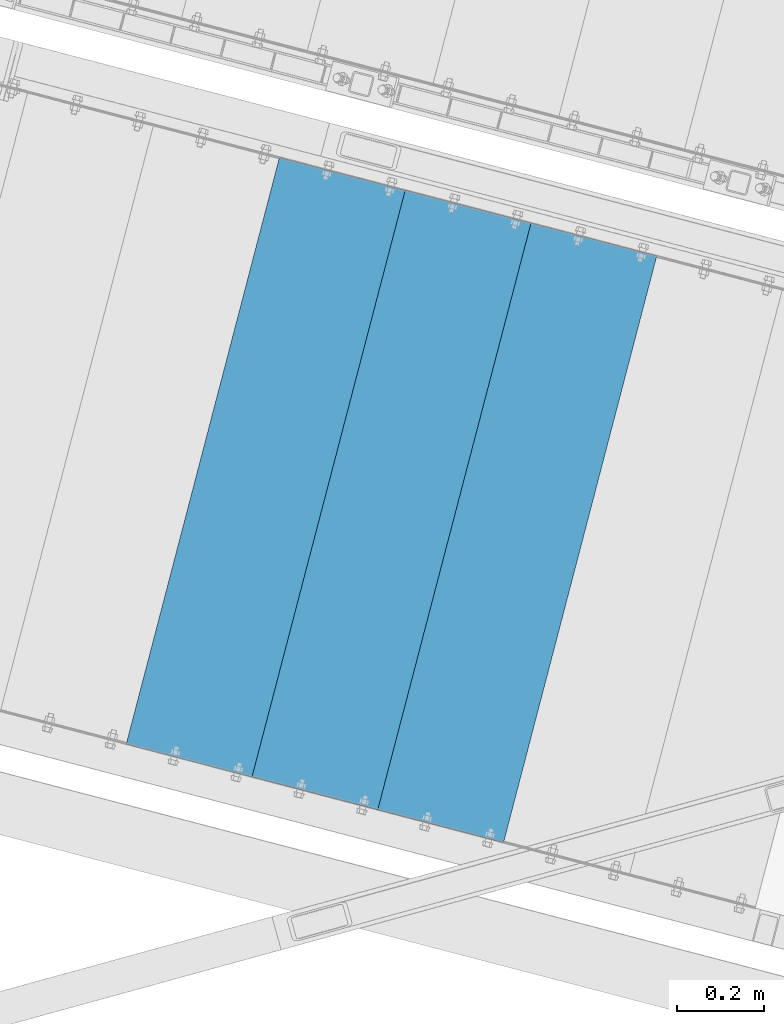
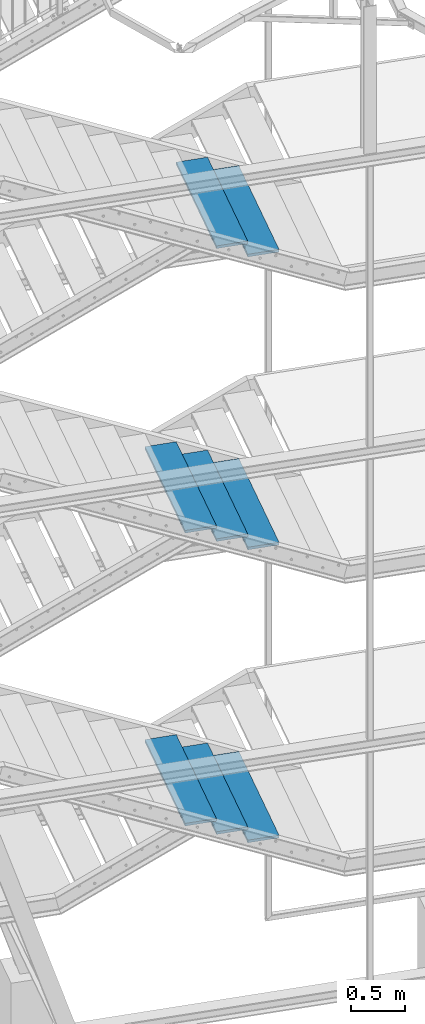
# One storey, part 34 of 169: 8 discrete accessories, 8 elements without a shape of their own.
"""IFC2X3 building model written with IfcOpenShell, lengths in millimetres."""

from ifc_helpers import new_model, si_unit, frame, origin_with_axes, place, context, subcontext, project, spatial, polyline, outline, extrude, material, type_object, element, aggregate, save


model = new_model("IFC2X3")

# Units and contexts
model_context = context("Model", 3, precision=1e-05, world=origin_with_axes())
body_context = subcontext(model_context, "Body", "Model", "MODEL_VIEW")
ifc_project = project(units=[si_unit("LENGTHUNIT", "METRE", prefix="MILLI"), si_unit("AREAUNIT", "SQUARE_METRE"), si_unit("VOLUMEUNIT", "CUBIC_METRE"), si_unit("MASSUNIT", "GRAM", prefix="KILO"), si_unit("TIMEUNIT", "SECOND"), si_unit("PLANEANGLEUNIT", "RADIAN"), si_unit("SOLIDANGLEUNIT", "STERADIAN"), si_unit("THERMODYNAMICTEMPERATUREUNIT", "DEGREE_CELSIUS"), si_unit("LUMINOUSINTENSITYUNIT", "LUMEN")], contexts=[model_context])

# Site, building, storey
site_placement = place(None, origin_with_axes())
site = spatial("IfcSite", under=ifc_project, at=site_placement, Name="Undefined", CompositionType="ELEMENT")
building_placement = place(site_placement, origin_with_axes())
building = spatial("IfcBuilding", under=site, at=building_placement, Name="Undefined", CompositionType="ELEMENT")
storey_placement = place(building_placement, origin_with_axes())
storey = spatial("IfcBuildingStorey", under=building, at=storey_placement, Name="Undefined", CompositionType="ELEMENT", Elevation=0.0)

# Assembly, discrete accessory
assembly_1_placement = place(storey_placement, origin_with_axes())
assembly_1 = element("IfcElementAssembly", 1, at=assembly_1_placement, inside=storey, Name="Steel Assembly", AssemblyPlace="NOTDEFINED", PredefinedType="RIGID_FRAME")
ifc_material = material(Name="STEEL/S235JR")
discrete_accessory_type = type_object("IfcDiscreteAccessoryType", Name="STOPNIE")
discrete_accessory_1_placement = place(assembly_1_placement, frame((-25805.6134253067, 6599.44397003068, 11165.3215824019), z_axis=(-2.54700353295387e-10, 0.0, -1.0), x_axis=(-0.252694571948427, -0.96754609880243, 0.0)))
discrete_accessory_1 = element("IfcDiscreteAccessory", 2, at=discrete_accessory_1_placement, type_object=discrete_accessory_type, material=ifc_material, Name="STOPNIE", ObjectType="PL30*300", context=body_context, shape_type="SweptSolid", body=[
    extrude(outline(polyline([(1400.00000144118, 150.000000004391), (1400.0000014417, -149.999999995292), (3.45607986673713e-11, -150.00000000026), (-3.09228198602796e-11, 150.000000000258), (1400.00000144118, 150.000000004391)])), frame((1.81898940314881e-12, 3.72231275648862e-23, -15.0000000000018), z_axis=(0.0, 0.0, 1.0), x_axis=(1.0, 0.0, 0.0)), (0.0, 0.0, 1.0), 30.0),
])
aggregate(assembly_1, [discrete_accessory_1])

assembly_2_placement = place(storey_placement, origin_with_axes())
assembly_2 = element("IfcElementAssembly", 3, at=assembly_2_placement, inside=storey, Name="Steel Assembly", AssemblyPlace="NOTDEFINED", PredefinedType="RIGID_FRAME")
discrete_accessory_2_placement = place(assembly_2_placement, frame((-25515.3495922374, 6523.63559767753, 11015.3215824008), z_axis=(-2.54700353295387e-10, 0.0, -1.0), x_axis=(-0.252694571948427, -0.96754609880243, 0.0)))
discrete_accessory_2 = element("IfcDiscreteAccessory", 4, at=discrete_accessory_2_placement, type_object=discrete_accessory_type, material=ifc_material, Name="STOPNIE", ObjectType="PL30*300", context=body_context, shape_type="SweptSolid", body=[
    extrude(outline(polyline([(1400.00000144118, 150.000000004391), (1400.0000014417, -149.999999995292), (3.45607986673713e-11, -150.00000000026), (-3.09228198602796e-11, 150.000000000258), (1400.00000144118, 150.000000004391)])), frame((1.81898940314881e-12, 3.72231275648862e-23, -15.0000000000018), z_axis=(0.0, 0.0, 1.0), x_axis=(1.0, 0.0, 0.0)), (0.0, 0.0, 1.0), 30.0),
])
aggregate(assembly_2, [discrete_accessory_2])

assembly_3_placement = place(storey_placement, origin_with_axes())
assembly_3 = element("IfcElementAssembly", 5, at=assembly_3_placement, inside=storey, Name="Steel Assembly", AssemblyPlace="NOTDEFINED", PredefinedType="RIGID_FRAME")
discrete_accessory_3_placement = place(assembly_3_placement, frame((-26095.9913357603, 6674.81542743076, 8015.32161330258), z_axis=(-2.54700353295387e-10, 0.0, -1.0), x_axis=(-0.252694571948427, -0.96754609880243, 0.0)))
discrete_accessory_3 = element("IfcDiscreteAccessory", 6, at=discrete_accessory_3_placement, type_object=discrete_accessory_type, material=ifc_material, Name="STOPNIE", ObjectType="PL30*300", context=body_context, shape_type="SweptSolid", body=[
    extrude(outline(polyline([(1400.00000144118, 150.000000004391), (1400.0000014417, -149.999999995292), (3.45607986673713e-11, -150.00000000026), (-3.09228198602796e-11, 150.000000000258), (1400.00000144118, 150.000000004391)])), frame((1.81898940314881e-12, 3.72231275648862e-23, -15.0000000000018), z_axis=(0.0, 0.0, 1.0), x_axis=(1.0, 0.0, 0.0)), (0.0, 0.0, 1.0), 30.0),
])
aggregate(assembly_3, [discrete_accessory_3])

assembly_4_placement = place(storey_placement, origin_with_axes())
assembly_4 = element("IfcElementAssembly", 7, at=assembly_4_placement, inside=storey, Name="Steel Assembly", AssemblyPlace="NOTDEFINED", PredefinedType="RIGID_FRAME")
discrete_accessory_4_placement = place(assembly_4_placement, frame((-25805.7275026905, 6599.00705507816, 7865.32161330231), z_axis=(-2.54700353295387e-10, 0.0, -1.0), x_axis=(-0.252694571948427, -0.96754609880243, 0.0)))
discrete_accessory_4 = element("IfcDiscreteAccessory", 8, at=discrete_accessory_4_placement, type_object=discrete_accessory_type, material=ifc_material, Name="STOPNIE", ObjectType="PL30*300", context=body_context, shape_type="SweptSolid", body=[
    extrude(outline(polyline([(1400.00000144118, 150.000000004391), (1400.0000014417, -149.999999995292), (3.45607986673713e-11, -150.00000000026), (-3.09228198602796e-11, 150.000000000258), (1400.00000144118, 150.000000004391)])), frame((1.81898940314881e-12, 3.72231275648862e-23, -15.0000000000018), z_axis=(0.0, 0.0, 1.0), x_axis=(1.0, 0.0, 0.0)), (0.0, 0.0, 1.0), 30.0),
])
aggregate(assembly_4, [discrete_accessory_4])

assembly_5_placement = place(storey_placement, origin_with_axes())
assembly_5 = element("IfcElementAssembly", 9, at=assembly_5_placement, inside=storey, Name="Steel Assembly", AssemblyPlace="NOTDEFINED", PredefinedType="RIGID_FRAME")
discrete_accessory_5_placement = place(assembly_5_placement, frame((-25515.4636696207, 6523.19868272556, 7715.32161330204), z_axis=(-2.54700353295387e-10, 0.0, -1.0), x_axis=(-0.252694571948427, -0.96754609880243, 0.0)))
discrete_accessory_5 = element("IfcDiscreteAccessory", 10, at=discrete_accessory_5_placement, type_object=discrete_accessory_type, material=ifc_material, Name="STOPNIE", ObjectType="PL30*300", context=body_context, shape_type="SweptSolid", body=[
    extrude(outline(polyline([(1400.00000144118, 150.000000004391), (1400.0000014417, -149.999999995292), (3.45607986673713e-11, -150.00000000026), (-3.09228198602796e-11, 150.000000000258), (1400.00000144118, 150.000000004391)])), frame((1.81898940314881e-12, 3.72231275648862e-23, -15.0000000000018), z_axis=(0.0, 0.0, 1.0), x_axis=(1.0, 0.0, 0.0)), (0.0, 0.0, 1.0), 30.0),
])
aggregate(assembly_5, [discrete_accessory_5])

assembly_6_placement = place(storey_placement, origin_with_axes())
assembly_6 = element("IfcElementAssembly", 11, at=assembly_6_placement, inside=storey, Name="Steel Assembly", AssemblyPlace="NOTDEFINED", PredefinedType="RIGID_FRAME")
discrete_accessory_6_placement = place(assembly_6_placement, frame((-26096.1054131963, 6674.37851249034, 4715.32164420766), z_axis=(-2.54700353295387e-10, 0.0, -1.0), x_axis=(-0.252694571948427, -0.96754609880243, 0.0)))
discrete_accessory_6 = element("IfcDiscreteAccessory", 12, at=discrete_accessory_6_placement, type_object=discrete_accessory_type, material=ifc_material, Name="STOPNIE", ObjectType="PL30*300", context=body_context, shape_type="SweptSolid", body=[
    extrude(outline(polyline([(1400.00000144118, 150.000000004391), (1400.0000014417, -149.999999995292), (3.45607986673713e-11, -150.00000000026), (-3.09228198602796e-11, 150.000000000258), (1400.00000144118, 150.000000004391)])), frame((1.81898940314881e-12, 3.72231275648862e-23, -15.0000000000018), z_axis=(0.0, 0.0, 1.0), x_axis=(1.0, 0.0, 0.0)), (0.0, 0.0, 1.0), 30.0),
])
aggregate(assembly_6, [discrete_accessory_6])

assembly_7_placement = place(storey_placement, origin_with_axes())
assembly_7 = element("IfcElementAssembly", 13, at=assembly_7_placement, inside=storey, Name="Steel Assembly", AssemblyPlace="NOTDEFINED", PredefinedType="RIGID_FRAME")
discrete_accessory_7_placement = place(assembly_7_placement, frame((-25805.8415801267, 6598.57014013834, 4565.32164420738), z_axis=(-2.54700353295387e-10, 0.0, -1.0), x_axis=(-0.252694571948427, -0.96754609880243, 0.0)))
discrete_accessory_7 = element("IfcDiscreteAccessory", 14, at=discrete_accessory_7_placement, type_object=discrete_accessory_type, material=ifc_material, Name="STOPNIE", ObjectType="PL30*300", context=body_context, shape_type="SweptSolid", body=[
    extrude(outline(polyline([(1400.00000144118, 150.000000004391), (1400.0000014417, -149.999999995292), (3.45607986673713e-11, -150.00000000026), (-3.09228198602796e-11, 150.000000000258), (1400.00000144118, 150.000000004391)])), frame((1.81898940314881e-12, 3.72231275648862e-23, -15.0000000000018), z_axis=(0.0, 0.0, 1.0), x_axis=(1.0, 0.0, 0.0)), (0.0, 0.0, 1.0), 30.0),
])
aggregate(assembly_7, [discrete_accessory_7])

assembly_8_placement = place(storey_placement, origin_with_axes())
assembly_8 = element("IfcElementAssembly", 15, at=assembly_8_placement, inside=storey, Name="Steel Assembly", AssemblyPlace="NOTDEFINED", PredefinedType="RIGID_FRAME")
discrete_accessory_8_placement = place(assembly_8_placement, frame((-25515.5777470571, 6522.76176778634, 4415.32164420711), z_axis=(-2.54700353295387e-10, 0.0, -1.0), x_axis=(-0.252694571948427, -0.96754609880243, 0.0)))
discrete_accessory_8 = element("IfcDiscreteAccessory", 16, at=discrete_accessory_8_placement, type_object=discrete_accessory_type, material=ifc_material, Name="STOPNIE", ObjectType="PL30*300", context=body_context, shape_type="SweptSolid", body=[
    extrude(outline(polyline([(1400.00000144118, 150.000000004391), (1400.0000014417, -149.999999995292), (3.45607986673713e-11, -150.00000000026), (-3.09228198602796e-11, 150.000000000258), (1400.00000144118, 150.000000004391)])), frame((1.81898940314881e-12, 3.72231275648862e-23, -15.0000000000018), z_axis=(0.0, 0.0, 1.0), x_axis=(1.0, 0.0, 0.0)), (0.0, 0.0, 1.0), 30.0),
])
aggregate(assembly_8, [discrete_accessory_8])

save(model, "model.ifc")
